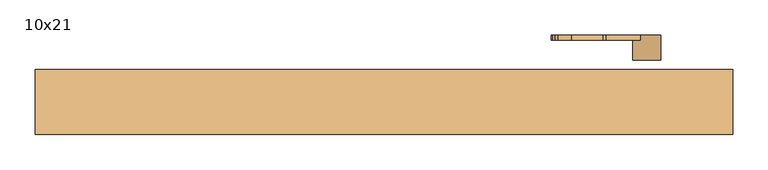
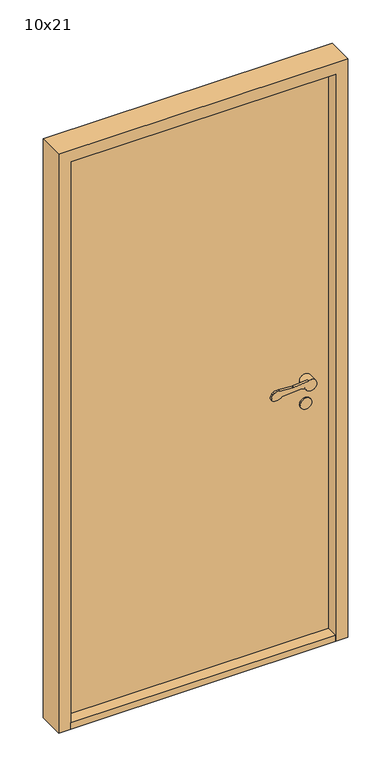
"""IFC4 building model written with IfcOpenShell, lengths in millimetres: door geometry, Innerdør Slett (Diplomat) : 10x21."""

from ifc_helpers import new_model, si_unit, point, frame, frame_2d, origin, origin_with_axes, place, context, project, spatial, polyline, circle_curve, trimmed, segment, composite_curve, outline, extrude, source, transform, mapped, element, save
from ifc_brep_helpers import plane_surface, cylinder_surface, revolved_surface, advanced_brep


def door_10x21_f5951159(model_context):
    return source(origin(), model_context, "Body", "SolidModel", [
        advanced_brep(
        [(393.9611305, -34.0, 949.1175955), (408.3841161, -34.0, 942.6204086), (446.379633, -34.0, 951.3474568), (417.2687793, -34.0, 969.1517356), (368.6891233, -34.0, 964.26032), (363.6202158, -34.0, 964.1804415), (318.8963175, -34.0, 967.2639242), (300.3175669, -34.0, 964.8810513), (295.505009, -34.0, 959.9624074), (291.8691983, -34.0, 951.8913379), (296.721536, -34.0, 938.7393398), (326.0476109, -34.0, 943.6260011), (388.8520664, -34.0, 949.9496913), (368.6891233, -26.8915284, 964.26032), (417.2687793, -26.8915284, 969.1517356), (406.379633, -26.8915284, 951.3474568), (408.3841161, -26.8915284, 942.6204086), (393.9611305, -26.8915284, 949.1175955), (388.8520664, -26.8915284, 949.9496913), (326.0476109, -26.8915284, 943.6260011), (296.721536, -26.8915284, 938.7393398), (291.8691983, -26.8915284, 951.8913379), (295.505009, -26.8915284, 959.9624074), (300.3175669, -26.8915284, 964.8810513), (318.8963175, -26.8915284, 967.2639242), (363.6202158, -26.8915284, 964.1804415), (446.379633, 1.0, 951.3474568), (406.379633, 1.0, 951.3474568)],
        [
            (0, 1),
            (1, 2, circle_curve(frame((426.379633, -34.0, 951.3474568), z_axis=(0.0, -1.0, 0.0), x_axis=(-1.0, 0.0, 0.0)), 20.0)),
            (2, 3, circle_curve(frame((426.379633, -34.0, 951.3474568), z_axis=(0.0, -1.0, 0.0), x_axis=(-1.0, 0.0, 0.0)), 20.0)),
            (3, 4),
            (4, 5, circle_curve(frame((365.683663, -34.0, 994.1093938), z_axis=(0.0, 1.0, 0.0), x_axis=(-0.9949691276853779, 0.0, -0.10018200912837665)), 30.0)),
            (5, 6),
            (6, 7, circle_curve(frame((313.2326797, -34.0, 937.8033877), z_axis=(0.0, -1.0, 0.0), x_axis=(-0.9949691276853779, 0.0, -0.10018200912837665)), 30.0)),
            (7, 8, circle_curve(frame((304.6226045, -34.0, 955.8551634), z_axis=(0.0, -1.0, 0.0), x_axis=(-0.9949691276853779, 0.0, -0.10018200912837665)), 10.0)),
            (8, 9),
            (9, 10, circle_curve(frame((300.9867937, -34.0, 947.7840939), z_axis=(0.0, -1.0, 0.0), x_axis=(-0.9949691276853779, 0.0, -0.10018200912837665)), 10.0)),
            (10, 11, circle_curve(frame((307.8569644, -34.0, 962.352734), z_axis=(0.0, -1.0, 0.0), x_axis=(-0.9949691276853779, 0.0, -0.10018200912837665)), 26.1072815)),
            (11, 12),
            (12, 0, circle_curve(frame((389.8538865, -34.0, 940.0), z_axis=(0.0, 1.0, 0.0), x_axis=(-0.9949691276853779, 0.0, -0.10018200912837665)), 10.0)),
            (13, 14),
            (14, 15, circle_curve(frame((426.379633, -26.8915284, 951.3474568), z_axis=(0.0, -1.0, 0.0), x_axis=(-1.0, 0.0, 0.0)), 20.0)),
            (15, 16, circle_curve(frame((426.379633, -26.8915284, 951.3474568), z_axis=(0.0, -1.0, 0.0), x_axis=(-1.0, 0.0, 0.0)), 20.0)),
            (16, 17),
            (17, 18, circle_curve(frame((389.8538865, -26.8915284, 940.0), z_axis=(0.0, -1.0, 0.0), x_axis=(-0.9949691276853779, 0.0, -0.10018200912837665)), 10.0)),
            (18, 19),
            (19, 20, circle_curve(frame((307.8569644, -26.8915284, 962.352734), z_axis=(0.0, 1.0, 0.0), x_axis=(-0.9949691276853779, 0.0, -0.10018200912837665)), 26.1072815)),
            (20, 21, circle_curve(frame((300.9867937, -26.8915284, 947.7840939), z_axis=(0.0, 1.0, 0.0), x_axis=(-0.9949691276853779, 0.0, -0.10018200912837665)), 10.0)),
            (21, 22),
            (22, 23, circle_curve(frame((304.6226045, -26.8915284, 955.8551634), z_axis=(0.0, 1.0, 0.0), x_axis=(-0.9949691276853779, 0.0, -0.10018200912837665)), 10.0)),
            (23, 24, circle_curve(frame((313.2326797, -26.8915284, 937.8033877), z_axis=(0.0, 1.0, 0.0), x_axis=(-0.9949691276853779, 0.0, -0.10018200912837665)), 30.0)),
            (24, 25),
            (25, 13, circle_curve(frame((365.683663, -26.8915284, 994.1093938), z_axis=(0.0, -1.0, 0.0), x_axis=(-0.9949691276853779, 0.0, -0.10018200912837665)), 30.0)),
            (3, 14),
            (13, 4),
            (16, 1),
            (0, 17),
            (12, 18),
            (11, 19),
            (10, 20),
            (9, 21),
            (8, 22),
            (7, 23),
            (6, 24),
            (5, 25),
            (26, 27, circle_curve(frame((426.379633, 1.0, 951.3474568), z_axis=(0.0, 1.0, 0.0), x_axis=(-1.0, 0.0, 0.0)), 20.0)),
            (27, 26, circle_curve(frame((426.379633, 1.0, 951.3474568), z_axis=(0.0, 1.0, 0.0), x_axis=(-1.0, 0.0, 0.0)), 20.0)),
            (26, 2),
            (15, 27),
        ],
        [
            plane_surface(frame((417.6960588, -34.0, 969.1947577), z_axis=(0.0, -1.0000000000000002, 0.0), x_axis=(0.9949691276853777, 0.0, 0.10018200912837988))),
            plane_surface(frame((417.6960588, -26.8915284, 969.1947577), z_axis=(0.0, 1.0000000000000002, 0.0), x_axis=(-0.9949691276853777, 0.0, -0.10018200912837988))),
            plane_surface(frame((368.6891233, -34.0, 964.26032), z_axis=(-0.10018200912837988, 0.0, 0.9949691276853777), x_axis=(0.0, 1.0, 0.0))),
            plane_surface(frame((426.9687366, -34.0, 934.2485115), z_axis=(-0.41072439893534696, 0.0, -0.91175954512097), x_axis=(0.0, 1.0, 0.0))),
            revolved_surface(polyline([(379.9041952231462, -26.8915284, 938.9981799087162), (379.9041952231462, -34.0, 938.9981799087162)]), (389.8538865, -26.8915284, 940.0), (0.0, 1.0, 0.0)),
            plane_surface(frame((388.8520664, -34.0, 949.9496913), z_axis=(0.10018200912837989, 0.0, -0.9949691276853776), x_axis=(0.0, 1.0, 0.0))),
            cylinder_surface(frame((307.8569644, -26.8915284, 962.352734), z_axis=(0.0, -1.0, 0.0), x_axis=(-0.9949691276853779, 0.0, -0.10018200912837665)), 26.1072815),
            cylinder_surface(frame((300.9867937, -26.8915284, 947.7840939), z_axis=(0.0, -1.0, 0.0), x_axis=(-0.9949691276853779, 0.0, -0.10018200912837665)), 10.0),
            plane_surface(frame((291.8691983, -34.0, 951.8913379), z_axis=(-0.9117595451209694, 0.0, 0.41072439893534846), x_axis=(0.0, 1.0, 0.0))),
            cylinder_surface(frame((304.6226045, -26.8915284, 955.8551634), z_axis=(0.0, -1.0, 0.0), x_axis=(-0.9949691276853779, 0.0, -0.10018200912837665)), 10.0),
            cylinder_surface(frame((313.2326797, -26.8915284, 937.8033877), z_axis=(0.0, -1.0, 0.0), x_axis=(-0.9949691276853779, 0.0, -0.10018200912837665)), 30.0),
            plane_surface(frame((318.8963175, -34.0, 967.2639242), z_axis=(0.06878157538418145, 0.0, 0.9976317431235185), x_axis=(0.0, 1.0, 0.0))),
            revolved_surface(polyline([(335.8345891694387, -26.8915284, 991.1039335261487), (335.8345891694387, -34.0, 991.1039335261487)]), (365.683663, -26.8915284, 994.1093938), (0.0, 1.0, 0.0)),
            plane_surface(frame((406.379633, 1.0, 951.3474568), z_axis=(0.0, 1.0, 0.0), x_axis=(0.0, 0.0, -1.0))),
            cylinder_surface(frame((426.379633, 1.0, 951.3474568), z_axis=(0.0, -1.0, 0.0), x_axis=(-1.0, 0.0, 0.0)), 20.0),
        ],
        [
            (0, [[1, 2, 3, 4, 5, 6, 7, 8, 9, 10, 11, 12, 13]]),
            (1, [[14, 15, 16, 17, 18, 19, 20, 21, 22, 23, 24, 25, 26]]),
            (2, [[-4, 27, -14, 28]]),
            (3, [[-17, 29, -1, 30]]),
            (4, [[31, -18, -30, -13]]),
            (5, [[32, -19, -31, -12]]),
            (6, [[33, -20, -32, -11]]),
            (7, [[34, -21, -33, -10]]),
            (8, [[35, -22, -34, -9]]),
            (9, [[36, -23, -35, -8]]),
            (10, [[37, -24, -36, -7]]),
            (11, [[38, -25, -37, -6]]),
            (12, [[-28, -26, -38, -5]]),
            (13, [[39, 40]]),
            (14, [[41, -2, -29, -16, 42, -39]]),
            (14, [[-42, -15, -27, -3, -41, -40]]),
        ],
    ),
        extrude(outline(composite_curve([segment(trimmed(circle_curve(frame_2d((866.3474568, 426.379633)), 20.0), [point((866.3474568, 446.379633))], [point((866.3474568, 406.379633))], False, "CARTESIAN"), True, "CONTINUOUS"), segment(trimmed(circle_curve(frame_2d((866.3474568, 426.379633)), 20.0), [point((866.3474568, 406.379633))], [point((866.3474568, 446.379633))], False, "CARTESIAN"), True, "CONTINUOUS")], self_intersect=False)), frame((0.0, -4.0, 0.0), z_axis=(0.0, 1.0, 0.0), x_axis=(0.0, 0.0, 1.0)), (0.0, 0.0, 1.0), 5.0),
        advanced_brep(
        [(393.9611305, 100.0, 949.1175955), (388.8520664, 100.0, 949.9496913), (326.0476109, 100.0, 943.6260011), (296.721536, 100.0, 938.7393398), (291.8691983, 100.0, 951.8913379), (295.505009, 100.0, 959.9624074), (300.3175669, 100.0, 964.8810513), (318.8963175, 100.0, 967.2639242), (363.6202158, 100.0, 964.1804415), (368.6891233, 100.0, 964.26032), (417.2687793, 100.0, 969.1517356), (446.379633, 100.0, 951.3474568), (408.3841161, 100.0, 942.6204086), (368.6891233, 92.8915284, 964.26032), (363.6202158, 92.8915284, 964.1804415), (318.8963175, 92.8915284, 967.2639242), (300.3175669, 92.8915284, 964.8810513), (295.505009, 92.8915284, 959.9624074), (291.8691983, 92.8915284, 951.8913379), (296.721536, 92.8915284, 938.7393398), (326.0476109, 92.8915284, 943.6260011), (388.8520664, 92.8915284, 949.9496913), (393.9611305, 92.8915284, 949.1175955), (408.3841161, 92.8915284, 942.6204086), (406.379633, 92.8915284, 951.3474568), (417.2687793, 92.8915284, 969.1517356), (446.379633, 65.0, 951.3474568), (406.379633, 65.0, 951.3474568)],
        [
            (0, 1, circle_curve(frame((389.8538865, 100.0, 940.0), z_axis=(0.0, -1.0, 0.0), x_axis=(-0.9949691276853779, 0.0, -0.10018200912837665)), 10.0)),
            (1, 2),
            (2, 3, circle_curve(frame((307.8569644, 100.0, 962.352734), z_axis=(0.0, 1.0, 0.0), x_axis=(-0.9949691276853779, 0.0, -0.10018200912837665)), 26.1072815)),
            (3, 4, circle_curve(frame((300.9867937, 100.0, 947.7840939), z_axis=(0.0, 1.0, 0.0), x_axis=(-0.9949691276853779, 0.0, -0.10018200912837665)), 10.0)),
            (4, 5),
            (5, 6, circle_curve(frame((304.6226045, 100.0, 955.8551634), z_axis=(0.0, 1.0, 0.0), x_axis=(-0.9949691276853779, 0.0, -0.10018200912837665)), 10.0)),
            (6, 7, circle_curve(frame((313.2326797, 100.0, 937.8033877), z_axis=(0.0, 1.0, 0.0), x_axis=(-0.9949691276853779, 0.0, -0.10018200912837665)), 30.0)),
            (7, 8),
            (8, 9, circle_curve(frame((365.683663, 100.0, 994.1093938), z_axis=(0.0, -1.0, 0.0), x_axis=(-0.9949691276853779, 0.0, -0.10018200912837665)), 30.0)),
            (9, 10),
            (10, 11, circle_curve(frame((426.379633, 100.0, 951.3474568), z_axis=(0.0, 1.0, 0.0), x_axis=(-1.0, 0.0, 0.0)), 20.0)),
            (11, 12, circle_curve(frame((426.379633, 100.0, 951.3474568), z_axis=(0.0, 1.0, 0.0), x_axis=(-1.0, 0.0, 0.0)), 20.0)),
            (12, 0),
            (13, 14, circle_curve(frame((365.683663, 92.8915284, 994.1093938), z_axis=(0.0, 1.0, 0.0), x_axis=(-0.9949691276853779, 0.0, -0.10018200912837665)), 30.0)),
            (14, 15),
            (15, 16, circle_curve(frame((313.2326797, 92.8915284, 937.8033877), z_axis=(0.0, -1.0, 0.0), x_axis=(-0.9949691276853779, 0.0, -0.10018200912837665)), 30.0)),
            (16, 17, circle_curve(frame((304.6226045, 92.8915284, 955.8551634), z_axis=(0.0, -1.0, 0.0), x_axis=(-0.9949691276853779, 0.0, -0.10018200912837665)), 10.0)),
            (17, 18),
            (18, 19, circle_curve(frame((300.9867937, 92.8915284, 947.7840939), z_axis=(0.0, -1.0, 0.0), x_axis=(-0.9949691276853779, 0.0, -0.10018200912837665)), 10.0)),
            (19, 20, circle_curve(frame((307.8569644, 92.8915284, 962.352734), z_axis=(0.0, -1.0, 0.0), x_axis=(-0.9949691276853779, 0.0, -0.10018200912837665)), 26.1072815)),
            (20, 21),
            (21, 22, circle_curve(frame((389.8538865, 92.8915284, 940.0), z_axis=(0.0, 1.0, 0.0), x_axis=(-0.9949691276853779, 0.0, -0.10018200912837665)), 10.0)),
            (22, 23),
            (23, 24, circle_curve(frame((426.379633, 92.8915284, 951.3474568), z_axis=(0.0, 1.0, 0.0), x_axis=(-1.0, 0.0, 0.0)), 20.0)),
            (24, 25, circle_curve(frame((426.379633, 92.8915284, 951.3474568), z_axis=(0.0, 1.0, 0.0), x_axis=(-1.0, 0.0, 0.0)), 20.0)),
            (25, 13),
            (9, 13),
            (25, 10),
            (22, 0),
            (12, 23),
            (21, 1),
            (20, 2),
            (19, 3),
            (18, 4),
            (17, 5),
            (16, 6),
            (15, 7),
            (14, 8),
            (26, 27, circle_curve(frame((426.379633, 65.0, 951.3474568), z_axis=(0.0, -1.0, 0.0), x_axis=(-1.0, 0.0, 0.0)), 20.0)),
            (27, 26, circle_curve(frame((426.379633, 65.0, 951.3474568), z_axis=(0.0, -1.0, 0.0), x_axis=(-1.0, 0.0, 0.0)), 20.0)),
            (27, 24),
            (11, 26),
        ],
        [
            plane_surface(frame((417.6960588, 100.0, 969.1947577), z_axis=(0.0, 1.0000000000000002, 0.0), x_axis=(0.9949691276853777, 0.0, 0.10018200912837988))),
            plane_surface(frame((417.6960588, 92.8915284, 969.1947577), z_axis=(0.0, -1.0000000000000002, 0.0), x_axis=(-0.9949691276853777, 0.0, -0.10018200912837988))),
            plane_surface(frame((368.6891233, 100.0, 964.26032), z_axis=(-0.10018200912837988, 0.0, 0.9949691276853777), x_axis=(0.0, -1.0, 0.0))),
            plane_surface(frame((426.9687366, 100.0, 934.2485115), z_axis=(-0.41072439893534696, 0.0, -0.91175954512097), x_axis=(0.0, -1.0, 0.0))),
            revolved_surface(polyline([(379.9041952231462, 92.8915284, 938.9981799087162), (379.9041952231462, 100.0, 938.9981799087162)]), (389.8538865, 92.8915284, 940.0), (0.0, -1.0, 0.0)),
            plane_surface(frame((388.8520664, 100.0, 949.9496913), z_axis=(0.10018200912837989, 0.0, -0.9949691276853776), x_axis=(0.0, -1.0, 0.0))),
            cylinder_surface(frame((307.8569644, 92.8915284, 962.352734), z_axis=(0.0, 1.0, 0.0), x_axis=(-0.9949691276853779, 0.0, -0.10018200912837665)), 26.1072815),
            cylinder_surface(frame((300.9867937, 92.8915284, 947.7840939), z_axis=(0.0, 1.0, 0.0), x_axis=(-0.9949691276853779, 0.0, -0.10018200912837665)), 10.0),
            plane_surface(frame((291.8691983, 100.0, 951.8913379), z_axis=(-0.9117595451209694, 0.0, 0.41072439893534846), x_axis=(0.0, -1.0, 0.0))),
            cylinder_surface(frame((304.6226045, 92.8915284, 955.8551634), z_axis=(0.0, 1.0, 0.0), x_axis=(-0.9949691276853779, 0.0, -0.10018200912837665)), 10.0),
            cylinder_surface(frame((313.2326797, 92.8915284, 937.8033877), z_axis=(0.0, 1.0, 0.0), x_axis=(-0.9949691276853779, 0.0, -0.10018200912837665)), 30.0),
            plane_surface(frame((318.8963175, 100.0, 967.2639242), z_axis=(0.06878157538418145, 0.0, 0.9976317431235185), x_axis=(0.0, -1.0, 0.0))),
            revolved_surface(polyline([(335.8345891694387, 92.8915284, 991.1039335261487), (335.8345891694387, 100.0, 991.1039335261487)]), (365.683663, 92.8915284, 994.1093938), (0.0, -1.0, 0.0)),
            plane_surface(frame((406.379633, 65.0, 951.3474568), z_axis=(0.0, -1.0, 0.0), x_axis=(0.0, 0.0, -1.0))),
            cylinder_surface(frame((426.379633, 65.0, 951.3474568), z_axis=(0.0, 1.0, 0.0), x_axis=(-1.0, 0.0, 0.0)), 20.0),
        ],
        [
            (0, [[1, 2, 3, 4, 5, 6, 7, 8, 9, 10, 11, 12, 13]]),
            (1, [[14, 15, 16, 17, 18, 19, 20, 21, 22, 23, 24, 25, 26]]),
            (2, [[27, -26, 28, -10]]),
            (3, [[29, -13, 30, -23]]),
            (4, [[-1, -29, -22, 31]]),
            (5, [[-2, -31, -21, 32]]),
            (6, [[-3, -32, -20, 33]]),
            (7, [[-4, -33, -19, 34]]),
            (8, [[-5, -34, -18, 35]]),
            (9, [[-6, -35, -17, 36]]),
            (10, [[-7, -36, -16, 37]]),
            (11, [[-8, -37, -15, 38]]),
            (12, [[-9, -38, -14, -27]]),
            (13, [[39, 40]]),
            (14, [[-40, 41, -24, -30, -12, 42]]),
            (14, [[-39, -42, -11, -28, -25, -41]]),
        ],
    ),
        extrude(outline(composite_curve([segment(trimmed(circle_curve(frame_2d((866.3474568, 426.379633)), 20.0), [point((866.3474568, 446.379633))], [point((866.3474568, 406.379633))], False, "CARTESIAN"), True, "CONTINUOUS"), segment(trimmed(circle_curve(frame_2d((866.3474568, 426.379633)), 20.0), [point((866.3474568, 406.379633))], [point((866.3474568, 446.379633))], False, "CARTESIAN"), True, "CONTINUOUS")], self_intersect=False)), frame((0.0, 65.0, 0.0), z_axis=(0.0, 1.0, 0.0), x_axis=(0.0, 0.0, 1.0)), (0.0, 0.0, 1.0), 5.0),
        extrude(outline(polyline([(506.379633, -41.0), (-399.620367, -41.0), (-399.620367, 51.0), (506.379633, 51.0), (506.379633, -41.0)])), origin_with_axes(), (0.0, 0.0, 1.0), 22.0),
        extrude(outline(polyline([(506.379633, 1.0), (-399.620367, 1.0), (-399.620367, 51.0), (506.379633, 51.0), (506.379633, 1.0)])), frame((0.0, 0.0, 22.0), z_axis=(0.0, 0.0, 1.0), x_axis=(1.0, 0.0, 0.0)), (0.0, 0.0, 1.0), 2031.0),
        extrude(outline(polyline([(0.0, -441.620367), (0.0, -399.620367), (2053.0, -399.620367), (2053.0, 506.379633), (0.0, 506.379633), (0.0, 548.379633), (2095.0, 548.379633), (2095.0, -441.620367), (0.0, -441.620367)])), frame((0.0, -41.0, 0.0), z_axis=(0.0, 1.0, 0.0), x_axis=(0.0, 0.0, 1.0)), (0.0, 0.0, 1.0), 92.0),
    ])


if __name__ == "__main__":
    model = new_model("IFC4")
    model_context = context("Model", 3, world=origin())
    ifc_project = project(units=[si_unit("LENGTHUNIT", "METRE", prefix="MILLI")], contexts=[model_context])
    site = spatial("IfcSite", under=ifc_project)
    building = spatial("IfcBuilding", under=site)
    placement = place(None, origin())
    door_10x21_shape = door_10x21_f5951159(model_context)
    element("IfcDoor", 1, ObjectType="Innerdør Slett (Diplomat) : 10x21", at=placement, inside=building, context=model_context, shape_type="MappedRepresentation", body=[
        mapped(door_10x21_shape, transform((0.0, 0.0, 0.0), x_axis=(1.0, 0.0, 0.0), y_axis=(0.0, 1.0, 0.0), z_axis=(0.0, 0.0, 1.0))),
    ])
    save(model, "model.ifc")
